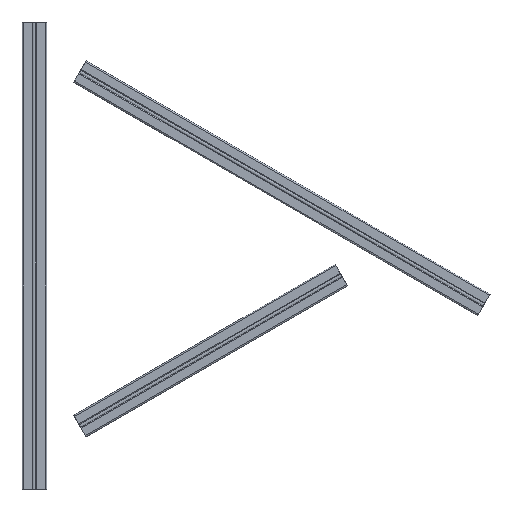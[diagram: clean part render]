
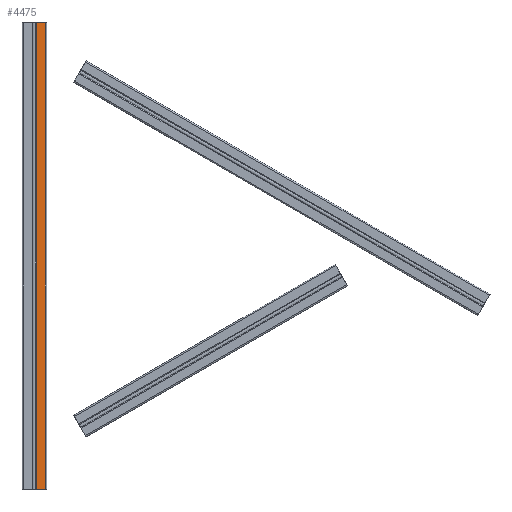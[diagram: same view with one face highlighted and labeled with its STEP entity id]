
A CAD part, top view. The second image highlights one B-rep face of the part: STEP entity #4475.
In plain terms, the highlighted planar face has unit normal (0, 0, 1).
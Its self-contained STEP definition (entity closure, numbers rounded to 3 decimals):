
#4475 = ADVANCED_FACE ( 'NONE', ( #12184 ), #12181, .F. ) ;
#4476 = EDGE_CURVE ( 'NONE', #4525, #4502, #12170, .T. ) ;
#4478 = ORIENTED_EDGE ( 'NONE', *, *, #4534, .T. ) ;
#4480 = VERTEX_POINT ( 'NONE', #12172 ) ;
#4485 = EDGE_LOOP ( 'NONE', ( #4478, #4528, #4493, #4522 ) ) ;
#4493 = ORIENTED_EDGE ( 'NONE', *, *, #4526, .F. ) ;
#4500 = VERTEX_POINT ( 'NONE', #12201 ) ;
#4502 = VERTEX_POINT ( 'NONE', #12208 ) ;
#4522 = ORIENTED_EDGE ( 'NONE', *, *, #4476, .T. ) ;
#4525 = VERTEX_POINT ( 'NONE', #12231 ) ;
#4526 = EDGE_CURVE ( 'NONE', #4525, #4500, #12278, .T. ) ;
#4528 = ORIENTED_EDGE ( 'NONE', *, *, #4529, .F. ) ;
#4529 = EDGE_CURVE ( 'NONE', #4500, #4480, #12267, .T. ) ;
#4534 = EDGE_CURVE ( 'NONE', #4502, #4480, #12310, .T. ) ;
#12146 = AXIS2_PLACEMENT_3D ( 'NONE', #12168, #12186, #12177 ) ;
#12168 = CARTESIAN_POINT ( 'NONE',  ( -2.5, 850., 22.5 ) ) ;
#12169 = CARTESIAN_POINT ( 'NONE',  ( -18.35, 850., 22.5 ) ) ;
#12170 = LINE ( 'NONE', #12169, #12230 ) ;
#12172 = CARTESIAN_POINT ( 'NONE',  ( -2.5, 0., 22.5 ) ) ;
#12176 = DIRECTION ( 'NONE',  ( 0., -1., 0. ) ) ;
#12177 = DIRECTION ( 'NONE',  ( -1., 0., 0. ) ) ;
#12181 = PLANE ( 'NONE',  #12146 ) ;
#12184 = FACE_OUTER_BOUND ( 'NONE', #4485, .T. ) ;
#12186 = DIRECTION ( 'NONE',  ( 0., 0., -1. ) ) ;
#12201 = CARTESIAN_POINT ( 'NONE',  ( -2.5, 850., 22.5 ) ) ;
#12208 = CARTESIAN_POINT ( 'NONE',  ( -18.35, 0., 22.5 ) ) ;
#12230 = VECTOR ( 'NONE', #12176, 1000. ) ;
#12231 = CARTESIAN_POINT ( 'NONE',  ( -18.35, 850., 22.5 ) ) ;
#12264 = DIRECTION ( 'NONE',  ( 0., -1., 0. ) ) ;
#12265 = VECTOR ( 'NONE', #12264, 1000. ) ;
#12266 = CARTESIAN_POINT ( 'NONE',  ( -2.5, 850., 22.5 ) ) ;
#12267 = LINE ( 'NONE', #12266, #12265 ) ;
#12275 = DIRECTION ( 'NONE',  ( 1., 0., 0. ) ) ;
#12276 = VECTOR ( 'NONE', #12275, 1000. ) ;
#12277 = CARTESIAN_POINT ( 'NONE',  ( -2.5, 850., 22.5 ) ) ;
#12278 = LINE ( 'NONE', #12277, #12276 ) ;
#12307 = DIRECTION ( 'NONE',  ( 1., 0., 0. ) ) ;
#12308 = VECTOR ( 'NONE', #12307, 1000. ) ;
#12309 = CARTESIAN_POINT ( 'NONE',  ( -2.5, 0., 22.5 ) ) ;
#12310 = LINE ( 'NONE', #12309, #12308 ) ;
